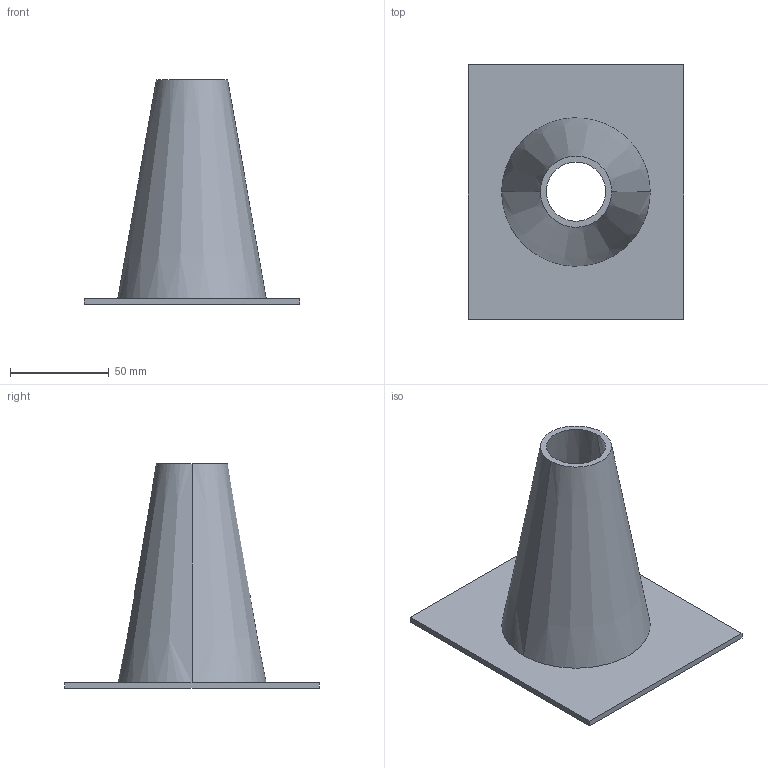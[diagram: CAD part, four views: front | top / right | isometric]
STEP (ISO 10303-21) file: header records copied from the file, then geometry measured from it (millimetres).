
FILE_DESCRIPTION(('CATIA V5 STEP Exchange'),'2;1');
FILE_NAME('C:\_Andres\UNIVERSIDAD\IQS\ASIGNATURAS\DAO\EXF\EXF-15161c\1original\Postius_Echeverri_Ej08-ensambla_v19.stp','2016-03-04T21:37:18+00:00',('none'),('none'),'CATIA Version 5 Release 20 SP 1 (IN-10)','CATIA V5 STEP AP203','none');
FILE_SCHEMA(('CONFIG_CONTROL_DESIGN'));
Length unit declared in the file: millimetre
Products named in the file (1): Postius_Echeverri_Ej08-ensambla_v19
Bounding box: 109 x 129 x 114 mm (x, y, z)
Volume: 86640.7 mm3; surface area: 59480.6 mm2
Topology: 1 solids, 1 shells, 11 faces, 24 edges, 16 vertices
Faces by surface type: plane 7, cone 4
Entity records: 414 total; most frequent: CARTESIAN_POINT 127, ORIENTED_EDGE 48, DIRECTION 44, EDGE_CURVE 24, AXIS2_PLACEMENT_3D 17, VECTOR 16, LINE 16, VERTEX_POINT 16
